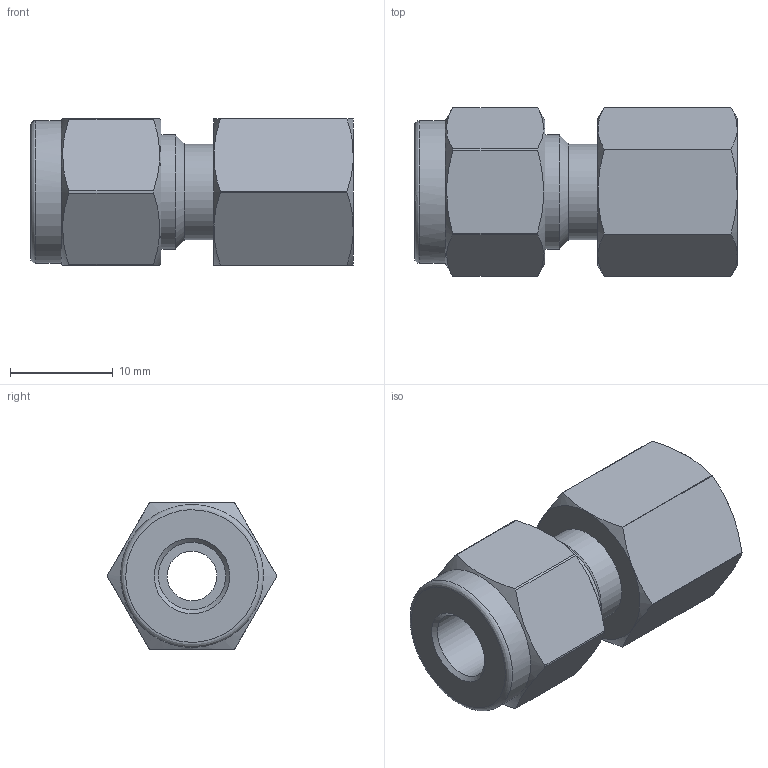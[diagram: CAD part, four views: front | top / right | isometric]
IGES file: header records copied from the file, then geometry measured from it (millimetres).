
Global section: file name: SFC-4-2N; native system: Autodesk Inventor 2016; preprocessor: unknown; author: 배성훈,,11,0; organization: 20150901.010102; date: 20151019.101952; units: millimetre
Bounding box: 31.44 x 16.49 x 14.3 mm (x, y, z)
Volume: 3636.9 mm3; surface area: 2583.4 mm2
Topology: 1 solids, 1 shells, 46 faces, 133 edges, 93 vertices
Faces by surface type: bspline 46
